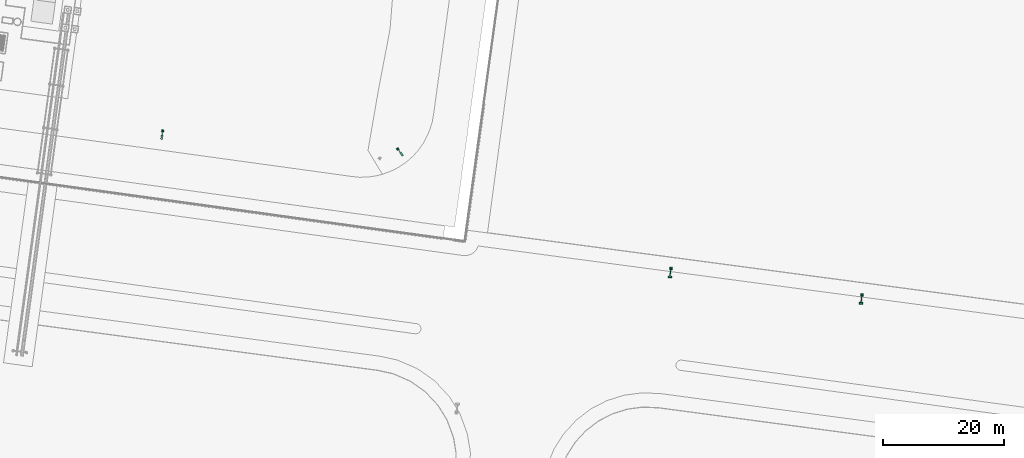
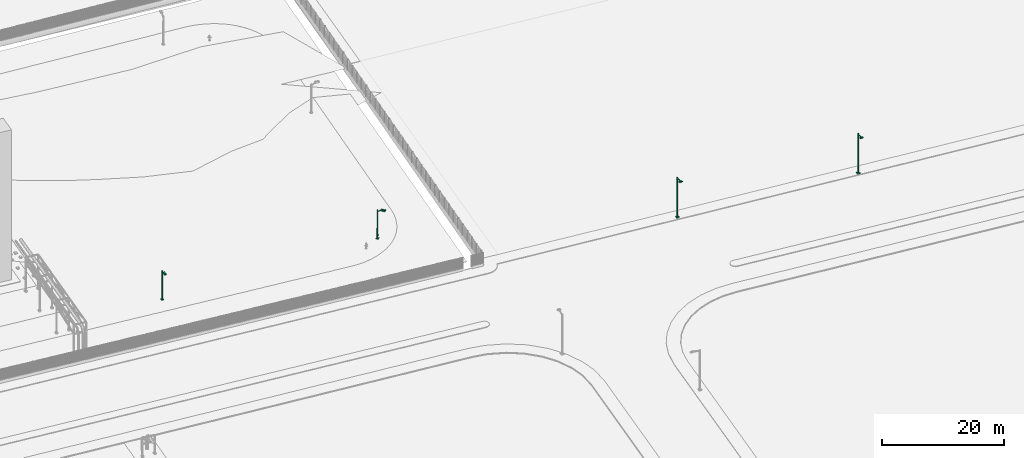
# Not in any storey, part 58 of 75: 4 light fixtures.
"""IFC4 model written with IfcOpenShell, lengths in metres."""

from ifc_helpers import new_model, si_unit, direction, origin, origin_with_axes, place, context, subcontext, project, spatial, triangles, element, save


model = new_model("IFC4")

# Units and contexts
model_context = context("Model", 3, precision=1e-05, world=origin_with_axes(), true_north=direction((0.0, 1.0)))
body_context = subcontext(model_context, "Body", "Model", "MODEL_VIEW")
ifc_project = project(units=[si_unit("AREAUNIT", "SQUARE_METRE"), si_unit("VOLUMEUNIT", "CUBIC_METRE"), si_unit("LENGTHUNIT", "METRE")], contexts=[model_context])

# Site
site_placement = place(None, origin_with_axes())
site = spatial("IfcSite", under=ifc_project, at=site_placement, Name="Parcela industrial Jinhong")

# Light fixtures
light_fixture_1_placement = place(None, origin())
element("IfcLightFixture", 1, at=light_fixture_1_placement, inside=site, Name="Luminaria LED L05 · provisional", ObjectType="Luminaria exterior provisional", PredefinedType="USERDEFINED", context=body_context, shape_type="Tessellation", body=[
    triangles([(113.705609, 18.039164, 1.957707), (113.705609, 18.039164, 2.017707), (114.039164, 18.294391, 1.957707), (114.039164, 18.294391, 2.017707), (113.960836, 17.705609, 1.957707), (113.960836, 17.705609, 2.017707), (114.294391, 17.960836, 1.957707), (114.294391, 17.960836, 2.017707)], [[2, 4, 1], [5, 2, 1], [1, 4, 3], [3, 5, 1], [2, 8, 4], [6, 2, 5], [6, 8, 2], [4, 8, 3], [7, 5, 3], [3, 8, 7], [7, 6, 5], [8, 6, 7]], closed=True),
    triangles([(114.0, 18.0, 2.017707), (114.085076, 17.888815, 2.017707), (114.085076, 17.888815, 2.077707), (114.0, 18.0, 2.077707), (114.121148, 17.929836, 2.017707), (114.121148, 17.929836, 2.077707), (114.138777, 17.981538, 2.017707), (114.138777, 17.981538, 2.077707), (114.135279, 18.036051, 2.017707), (114.135279, 18.036051, 2.077707), (114.111185, 18.085076, 2.017707), (114.111185, 18.085076, 2.077707), (114.070164, 18.121148, 2.017707), (114.070164, 18.121148, 2.077707), (114.018462, 18.138777, 2.017707), (114.018462, 18.138777, 2.077707), (113.963949, 18.135279, 2.017707), (113.963949, 18.135279, 2.077707), (113.914924, 18.111185, 2.017707), (113.914924, 18.111185, 2.077707), (113.878852, 18.070164, 2.017707), (113.878852, 18.070164, 2.077707), (113.861223, 18.018462, 2.017707), (113.861223, 18.018462, 2.077707), (113.864721, 17.963949, 2.017707), (113.864721, 17.963949, 2.077707), (113.888815, 17.914924, 2.017707), (113.888815, 17.914924, 2.077707), (113.929836, 17.878852, 2.017707), (113.929836, 17.878852, 2.077707), (113.981538, 17.861223, 2.017707), (113.981538, 17.861223, 2.077707), (114.036051, 17.864721, 2.017707), (114.036051, 17.864721, 2.077707)], [[2, 1, 5], [2, 5, 3], [3, 5, 6], [3, 6, 4], [5, 1, 7], [5, 7, 6], [6, 7, 8], [6, 8, 4], [7, 1, 9], [7, 9, 8], [8, 9, 10], [8, 10, 4], [9, 1, 11], [9, 11, 10], [10, 11, 12], [10, 12, 4], [11, 1, 13], [11, 13, 12], [12, 13, 14], [12, 14, 4], [13, 1, 15], [13, 15, 14], [14, 15, 16], [14, 16, 4], [15, 1, 17], [15, 17, 16], [16, 17, 18], [16, 18, 4], [17, 1, 19], [17, 19, 18], [18, 19, 20], [18, 20, 4], [19, 1, 21], [19, 21, 20], [20, 21, 22], [20, 22, 4], [21, 1, 23], [21, 23, 22], [22, 23, 24], [22, 24, 4], [23, 1, 25], [23, 25, 24], [24, 25, 26], [24, 26, 4], [25, 1, 27], [25, 27, 26], [26, 27, 28], [26, 28, 4], [27, 1, 29], [27, 29, 28], [28, 29, 30], [28, 30, 4], [29, 1, 31], [29, 31, 30], [30, 31, 32], [30, 32, 4], [31, 1, 33], [31, 33, 32], [32, 33, 34], [32, 34, 4], [33, 1, 2], [33, 2, 34], [34, 2, 3], [34, 3, 4]], closed=True),
    triangles([(114.051653, 17.932495, 2.077707), (114.073554, 17.9574, 2.077707), (114.084258, 17.988791, 2.077707), (114.082133, 18.021888, 2.077707), (114.067505, 18.051653, 2.077707), (114.0426, 18.073554, 2.077707), (114.011209, 18.084258, 2.077707), (113.978112, 18.082133, 2.077707), (113.948347, 18.067505, 2.077707), (113.926446, 18.0426, 2.077707), (113.915742, 18.011209, 2.077707), (113.917867, 17.978112, 2.077707), (113.932495, 17.948347, 2.077707), (113.9574, 17.926446, 2.077707), (113.988791, 17.915742, 2.077707), (114.021888, 17.917867, 2.077707), (114.027346, 17.964262, 7.657707), (114.038941, 17.977447, 7.657707), (114.044607, 17.994066, 7.657707), (114.043482, 18.011588, 7.657707), (114.035738, 18.027346, 7.657707), (114.022553, 18.038941, 7.657707), (114.005934, 18.044607, 7.657707), (113.988412, 18.043482, 7.657707), (113.972654, 18.035738, 7.657707), (113.961059, 18.022553, 7.657707), (113.955393, 18.005934, 7.657707), (113.956518, 17.988412, 7.657707), (113.964262, 17.972654, 7.657707), (113.977447, 17.961059, 7.657707), (113.994066, 17.955393, 7.657707), (114.011588, 17.956518, 7.657707)], [[31, 14, 15], [30, 14, 31], [29, 14, 30], [13, 14, 29], [26, 10, 11], [26, 11, 27], [9, 10, 26], [26, 25, 9], [4, 10, 9], [1, 16, 4], [13, 12, 4], [4, 6, 5], [9, 8, 4], [4, 2, 1], [4, 16, 15], [3, 2, 4], [4, 12, 11], [11, 10, 4], [4, 14, 13], [15, 14, 4], [7, 6, 4], [4, 8, 7], [1, 2, 18], [18, 17, 1], [32, 16, 1], [1, 17, 32], [15, 16, 32], [32, 31, 15], [11, 12, 28], [27, 11, 28], [28, 12, 13], [13, 29, 28], [21, 4, 5], [20, 4, 21], [7, 8, 24], [23, 7, 24], [9, 25, 24], [24, 8, 9], [3, 4, 19], [19, 4, 20], [19, 2, 3], [19, 18, 2], [22, 32, 17], [22, 26, 27], [17, 18, 22], [22, 19, 20], [27, 28, 22], [30, 31, 22], [22, 29, 30], [25, 26, 22], [23, 24, 22], [31, 32, 22], [22, 28, 29], [20, 21, 22], [22, 24, 25], [18, 19, 22], [22, 6, 7], [22, 7, 23], [5, 6, 22], [22, 21, 5]], closed=True),
    triangles([(114.0, 18.0, 7.657707), (114.028561, 17.962674, 7.657707), (114.028561, 17.962674, 7.677707), (114.0, 18.0, 7.677707), (114.040671, 17.976445, 7.657707), (114.040671, 17.976445, 7.677707), (114.04659, 17.993802, 7.657707), (114.04659, 17.993802, 7.677707), (114.045415, 18.012103, 7.657707), (114.045415, 18.012103, 7.677707), (114.037326, 18.028561, 7.657707), (114.037326, 18.028561, 7.677707), (114.023555, 18.040671, 7.657707), (114.023555, 18.040671, 7.677707), (114.006198, 18.04659, 7.657707), (114.006198, 18.04659, 7.677707), (113.987897, 18.045415, 7.657707), (113.987897, 18.045415, 7.677707), (113.971439, 18.037326, 7.657707), (113.971439, 18.037326, 7.677707), (113.959329, 18.023555, 7.657707), (113.959329, 18.023555, 7.677707), (113.95341, 18.006198, 7.657707), (113.95341, 18.006198, 7.677707), (113.954585, 17.987897, 7.657707), (113.954585, 17.987897, 7.677707), (113.962674, 17.971439, 7.657707), (113.962674, 17.971439, 7.677707), (113.976445, 17.959329, 7.657707), (113.976445, 17.959329, 7.677707), (113.993802, 17.95341, 7.657707), (113.993802, 17.95341, 7.677707), (114.012103, 17.954585, 7.657707), (114.012103, 17.954585, 7.677707)], [[2, 1, 5], [2, 5, 3], [3, 5, 6], [3, 6, 4], [5, 1, 7], [5, 7, 6], [6, 7, 8], [6, 8, 4], [7, 1, 9], [7, 9, 8], [8, 9, 10], [8, 10, 4], [9, 1, 11], [9, 11, 10], [10, 11, 12], [10, 12, 4], [11, 1, 13], [11, 13, 12], [12, 13, 14], [12, 14, 4], [13, 1, 15], [13, 15, 14], [14, 15, 16], [14, 16, 4], [15, 1, 17], [15, 17, 16], [16, 17, 18], [16, 18, 4], [17, 1, 19], [17, 19, 18], [18, 19, 20], [18, 20, 4], [19, 1, 21], [19, 21, 20], [20, 21, 22], [20, 22, 4], [21, 1, 23], [21, 23, 22], [22, 23, 24], [22, 24, 4], [23, 1, 25], [23, 25, 24], [24, 25, 26], [24, 26, 4], [25, 1, 27], [25, 27, 26], [26, 27, 28], [26, 28, 4], [27, 1, 29], [27, 29, 28], [28, 29, 30], [28, 30, 4], [29, 1, 31], [29, 31, 30], [30, 31, 32], [30, 32, 4], [31, 1, 33], [31, 33, 32], [32, 33, 34], [32, 34, 4], [33, 1, 2], [33, 2, 34], [34, 2, 3], [34, 3, 4]], closed=True),
    triangles([(113.817758, 18.024244, 2.017707), (113.828696, 18.009949, 2.017707), (113.828696, 18.009949, 2.042707), (113.817758, 18.024244, 2.042707), (113.835607, 18.026569, 2.017707), (113.835607, 18.026569, 2.042707), (113.824669, 18.040865, 2.017707), (113.824669, 18.040865, 2.042707), (113.806819, 18.038539, 2.017707), (113.806819, 18.038539, 2.042707), (113.799909, 18.021919, 2.017707), (113.799909, 18.021919, 2.042707), (113.810847, 18.007624, 2.017707), (113.810847, 18.007624, 2.042707)], [[2, 1, 5], [2, 5, 3], [3, 5, 6], [3, 6, 4], [5, 1, 7], [5, 7, 6], [6, 7, 8], [6, 8, 4], [7, 1, 9], [7, 9, 8], [8, 9, 10], [8, 10, 4], [9, 1, 11], [9, 11, 10], [10, 11, 12], [10, 12, 4], [11, 1, 13], [11, 13, 12], [12, 13, 14], [12, 14, 4], [13, 1, 2], [13, 2, 14], [14, 2, 3], [14, 3, 4]], closed=True),
    triangles([(114.024244, 18.182242, 2.017707), (114.035183, 18.167947, 2.017707), (114.035183, 18.167947, 2.042707), (114.024244, 18.182242, 2.042707), (114.042093, 18.184567, 2.017707), (114.042093, 18.184567, 2.042707), (114.031155, 18.198863, 2.017707), (114.031155, 18.198863, 2.042707), (114.013306, 18.196537, 2.017707), (114.013306, 18.196537, 2.042707), (114.006395, 18.179917, 2.017707), (114.006395, 18.179917, 2.042707), (114.017333, 18.165622, 2.017707), (114.017333, 18.165622, 2.042707)], [[2, 1, 5], [2, 5, 3], [3, 5, 6], [3, 6, 4], [5, 1, 7], [5, 7, 6], [6, 7, 8], [6, 8, 4], [7, 1, 9], [7, 9, 8], [8, 9, 10], [8, 10, 4], [9, 1, 11], [9, 11, 10], [10, 11, 12], [10, 12, 4], [11, 1, 13], [11, 13, 12], [12, 13, 14], [12, 14, 4], [13, 1, 2], [13, 2, 14], [14, 2, 3], [14, 3, 4]], closed=True),
    triangles([(113.975756, 17.817758, 2.017707), (113.986694, 17.803463, 2.017707), (113.986694, 17.803463, 2.042707), (113.975756, 17.817758, 2.042707), (113.993605, 17.820083, 2.017707), (113.993605, 17.820083, 2.042707), (113.982667, 17.834378, 2.017707), (113.982667, 17.834378, 2.042707), (113.964817, 17.832053, 2.017707), (113.964817, 17.832053, 2.042707), (113.957907, 17.815433, 2.017707), (113.957907, 17.815433, 2.042707), (113.968845, 17.801137, 2.017707), (113.968845, 17.801137, 2.042707)], [[2, 1, 5], [2, 5, 3], [3, 5, 6], [3, 6, 4], [5, 1, 7], [5, 7, 6], [6, 7, 8], [6, 8, 4], [7, 1, 9], [7, 9, 8], [8, 9, 10], [8, 10, 4], [9, 1, 11], [9, 11, 10], [10, 11, 12], [10, 12, 4], [11, 1, 13], [11, 13, 12], [12, 13, 14], [12, 14, 4], [13, 1, 2], [13, 2, 14], [14, 2, 3], [14, 3, 4]], closed=True),
    triangles([(114.182242, 17.975756, 2.017707), (114.193181, 17.961461, 2.017707), (114.193181, 17.961461, 2.042707), (114.182242, 17.975756, 2.042707), (114.200091, 17.978081, 2.017707), (114.200091, 17.978081, 2.042707), (114.189153, 17.992376, 2.017707), (114.189153, 17.992376, 2.042707), (114.171304, 17.990051, 2.017707), (114.171304, 17.990051, 2.042707), (114.164393, 17.973431, 2.017707), (114.164393, 17.973431, 2.042707), (114.175331, 17.959135, 2.017707), (114.175331, 17.959135, 2.042707)], [[2, 1, 5], [2, 5, 3], [3, 5, 6], [3, 6, 4], [5, 1, 7], [5, 7, 6], [6, 7, 8], [6, 8, 4], [7, 1, 9], [7, 9, 8], [8, 9, 10], [8, 10, 4], [9, 1, 11], [9, 11, 10], [10, 11, 12], [10, 12, 4], [11, 1, 13], [11, 13, 12], [12, 13, 14], [12, 14, 4], [13, 1, 2], [13, 2, 14], [14, 2, 3], [14, 3, 4]], closed=True),
    triangles([(114.01778, 17.919168, 2.487707), (114.01778, 17.919168, 2.787707), (114.073373, 17.961706, 2.487707), (114.073373, 17.961706, 2.787707), (114.025072, 17.909638, 2.487707), (114.025072, 17.909638, 2.787707), (114.080665, 17.952175, 2.487707), (114.080665, 17.952175, 2.787707)], [[2, 4, 1], [5, 2, 1], [1, 4, 3], [3, 5, 1], [2, 8, 4], [6, 2, 5], [6, 8, 2], [4, 8, 3], [7, 5, 3], [3, 8, 7], [7, 6, 5], [8, 6, 7]], closed=True),
    triangles([(114.0, 18.0, 7.357707), (114.011745, 17.984651, 7.329735), (114.345971, 17.547853, 7.709735), (114.334227, 17.563202, 7.737707), (114.023672, 17.997038, 7.333482), (114.357899, 17.56024, 7.713482), (114.029257, 18.010219, 7.343721), (114.363483, 17.573421, 7.723721), (114.027002, 18.020661, 7.357707), (114.361229, 17.583863, 7.737707), (114.017512, 18.025568, 7.371694), (114.351739, 17.588769, 7.751694), (114.00333, 18.023623, 7.381933), (114.337556, 17.586825, 7.761933), (113.988255, 18.015349, 7.38568), (114.322482, 17.578551, 7.76568), (113.976328, 18.002962, 7.381933), (114.310554, 17.566164, 7.761933), (113.970743, 17.989781, 7.371694), (114.30497, 17.552983, 7.751694), (113.972998, 17.979339, 7.357707), (114.307224, 17.542541, 7.737707), (113.982488, 17.974432, 7.343721), (114.316714, 17.537634, 7.723721), (113.99667, 17.976377, 7.333482), (114.330897, 17.539579, 7.713482)], [[2, 1, 5], [2, 5, 3], [3, 5, 6], [3, 6, 4], [5, 1, 7], [5, 7, 6], [6, 7, 8], [6, 8, 4], [7, 1, 9], [7, 9, 8], [8, 9, 10], [8, 10, 4], [9, 1, 11], [9, 11, 10], [10, 11, 12], [10, 12, 4], [11, 1, 13], [11, 13, 12], [12, 13, 14], [12, 14, 4], [13, 1, 15], [13, 15, 14], [14, 15, 16], [14, 16, 4], [15, 1, 17], [15, 17, 16], [16, 17, 18], [16, 18, 4], [17, 1, 19], [17, 19, 18], [18, 19, 20], [18, 20, 4], [19, 1, 21], [19, 21, 20], [20, 21, 22], [20, 22, 4], [21, 1, 23], [21, 23, 22], [22, 23, 24], [22, 24, 4], [23, 1, 25], [23, 25, 24], [24, 25, 26], [24, 26, 4], [25, 1, 2], [25, 2, 26], [26, 2, 3], [26, 3, 4]], closed=True),
    triangles([(114.334227, 17.563202, 7.737707), (114.340927, 17.554444, 7.705545), (114.553617, 17.276482, 7.825545), (114.546916, 17.285239, 7.857707), (114.353531, 17.565948, 7.709854), (114.56622, 17.287986, 7.829854), (114.360961, 17.576716, 7.721626), (114.573651, 17.298754, 7.841626), (114.361229, 17.583863, 7.737707), (114.573918, 17.305901, 7.857707), (114.354261, 17.585474, 7.753788), (114.56695, 17.307511, 7.873788), (114.341924, 17.581117, 7.765561), (114.554614, 17.303154, 7.885561), (114.327526, 17.571959, 7.76987), (114.540215, 17.293997, 7.88987), (114.314922, 17.560455, 7.765561), (114.527612, 17.282493, 7.885561), (114.307492, 17.549687, 7.753788), (114.520181, 17.271725, 7.873788), (114.307224, 17.542541, 7.737707), (114.519914, 17.264578, 7.857707), (114.314193, 17.54093, 7.721626), (114.526882, 17.262967, 7.841626), (114.326529, 17.545287, 7.709854), (114.539218, 17.267325, 7.829854)], [[2, 1, 5], [2, 5, 3], [3, 5, 6], [3, 6, 4], [5, 1, 7], [5, 7, 6], [6, 7, 8], [6, 8, 4], [7, 1, 9], [7, 9, 8], [8, 9, 10], [8, 10, 4], [9, 1, 11], [9, 11, 10], [10, 11, 12], [10, 12, 4], [11, 1, 13], [11, 13, 12], [12, 13, 14], [12, 14, 4], [13, 1, 15], [13, 15, 14], [14, 15, 16], [14, 16, 4], [15, 1, 17], [15, 17, 16], [16, 17, 18], [16, 18, 4], [17, 1, 19], [17, 19, 18], [18, 19, 20], [18, 20, 4], [19, 1, 21], [19, 21, 20], [20, 21, 22], [20, 22, 4], [21, 1, 23], [21, 23, 22], [22, 23, 24], [22, 24, 4], [23, 1, 25], [23, 25, 24], [24, 25, 26], [24, 26, 4], [25, 1, 2], [25, 2, 26], [26, 2, 3], [26, 3, 4]], closed=True),
    triangles([(114.294099, 17.368806, 7.777707), (114.294099, 17.368806, 7.957707), (114.532352, 17.551111, 7.777707), (114.532352, 17.551111, 7.957707), (114.731632, 16.796997, 7.777707), (114.731632, 16.796997, 7.957707), (114.969885, 16.979303, 7.777707), (114.969885, 16.979303, 7.957707)], [[2, 4, 1], [5, 2, 1], [1, 4, 3], [3, 5, 1], [2, 8, 4], [6, 2, 5], [6, 8, 2], [4, 8, 3], [7, 5, 3], [3, 8, 7], [7, 6, 5], [8, 6, 7]], closed=True),
    triangles([(114.362327, 17.345463, 7.752707), (114.362327, 17.345463, 7.777707), (114.537046, 17.479153, 7.752707), (114.537046, 17.479153, 7.777707), (114.726938, 16.868956, 7.752707), (114.726938, 16.868956, 7.777707), (114.901657, 17.002646, 7.752707), (114.901657, 17.002646, 7.777707)], [[2, 4, 1], [5, 2, 1], [1, 4, 3], [3, 5, 1], [2, 8, 4], [6, 2, 5], [6, 8, 2], [4, 8, 3], [7, 5, 3], [3, 8, 7], [7, 6, 5], [8, 6, 7]], closed=True),
])
light_fixture_2_placement = place(None, origin())
element("IfcLightFixture", 2, at=light_fixture_2_placement, inside=site, Name="Luminaria LED L06 · provisional", ObjectType="Luminaria exterior provisional", PredefinedType="USERDEFINED", context=body_context, shape_type="Tessellation", body=[
    triangles([(74.820627, 21.236697, 1.580865), (74.820627, 21.236697, 1.640865), (75.236697, 21.179373, 1.580865), (75.236697, 21.179373, 1.640865), (74.763303, 20.820627, 1.580865), (74.763303, 20.820627, 1.640865), (75.179373, 20.763303, 1.580865), (75.179373, 20.763303, 1.640865)], [[2, 4, 1], [5, 2, 1], [1, 4, 3], [3, 5, 1], [2, 8, 4], [6, 2, 5], [6, 8, 2], [4, 8, 3], [7, 5, 3], [3, 8, 7], [7, 6, 5], [8, 6, 7]], closed=True),
    triangles([(75.0, 21.0, 1.640865), (74.980892, 20.86131, 1.640865), (74.980892, 20.86131, 1.700865), (75.0, 21.0, 1.700865), (75.035421, 20.864555, 1.640865), (75.035421, 20.864555, 1.700865), (75.084557, 20.88842, 1.640865), (75.084557, 20.88842, 1.700865), (75.120821, 20.929272, 1.640865), (75.120821, 20.929272, 1.700865), (75.13869, 20.980892, 1.640865), (75.13869, 20.980892, 1.700865), (75.135445, 21.035421, 1.640865), (75.135445, 21.035421, 1.700865), (75.11158, 21.084557, 1.640865), (75.11158, 21.084557, 1.700865), (75.070728, 21.120821, 1.640865), (75.070728, 21.120821, 1.700865), (75.019108, 21.13869, 1.640865), (75.019108, 21.13869, 1.700865), (74.964579, 21.135445, 1.640865), (74.964579, 21.135445, 1.700865), (74.915443, 21.11158, 1.640865), (74.915443, 21.11158, 1.700865), (74.879179, 21.070728, 1.640865), (74.879179, 21.070728, 1.700865), (74.86131, 21.019108, 1.640865), (74.86131, 21.019108, 1.700865), (74.864555, 20.964579, 1.640865), (74.864555, 20.964579, 1.700865), (74.88842, 20.915443, 1.640865), (74.88842, 20.915443, 1.700865), (74.929272, 20.879179, 1.640865), (74.929272, 20.879179, 1.700865)], [[2, 1, 5], [2, 5, 3], [3, 5, 6], [3, 6, 4], [5, 1, 7], [5, 7, 6], [6, 7, 8], [6, 8, 4], [7, 1, 9], [7, 9, 8], [8, 9, 10], [8, 10, 4], [9, 1, 11], [9, 11, 10], [10, 11, 12], [10, 12, 4], [11, 1, 13], [11, 13, 12], [12, 13, 14], [12, 14, 4], [13, 1, 15], [13, 15, 14], [14, 15, 16], [14, 16, 4], [15, 1, 17], [15, 17, 16], [16, 17, 18], [16, 18, 4], [17, 1, 19], [17, 19, 18], [18, 19, 20], [18, 20, 4], [19, 1, 21], [19, 21, 20], [20, 21, 22], [20, 22, 4], [21, 1, 23], [21, 23, 22], [22, 23, 24], [22, 24, 4], [23, 1, 25], [23, 25, 24], [24, 25, 26], [24, 26, 4], [25, 1, 27], [25, 27, 26], [26, 27, 28], [26, 28, 4], [27, 1, 29], [27, 29, 28], [28, 29, 30], [28, 30, 4], [29, 1, 31], [29, 31, 30], [30, 31, 32], [30, 32, 4], [31, 1, 33], [31, 33, 32], [32, 33, 34], [32, 34, 4], [33, 1, 2], [33, 2, 34], [34, 2, 3], [34, 3, 4]], closed=True),
    triangles([(74.988399, 20.915795, 1.700865), (75.021506, 20.917766, 1.700865), (75.051338, 20.932255, 1.700865), (75.073355, 20.957058, 1.700865), (75.084205, 20.988399, 1.700865), (75.082234, 21.021506, 1.700865), (75.067745, 21.051338, 1.700865), (75.042942, 21.073355, 1.700865), (75.011601, 21.084205, 1.700865), (74.978494, 21.082234, 1.700865), (74.948662, 21.067745, 1.700865), (74.926645, 21.042942, 1.700865), (74.915795, 21.011601, 1.700865), (74.917766, 20.978494, 1.700865), (74.932255, 20.948662, 1.700865), (74.957058, 20.926645, 1.700865), (74.993858, 20.955421, 7.280865), (75.011385, 20.956464, 7.280865), (75.027179, 20.964135, 7.280865), (75.038835, 20.977266, 7.280865), (75.044579, 20.993858, 7.280865), (75.043536, 21.011385, 7.280865), (75.035865, 21.027179, 7.280865), (75.022734, 21.038835, 7.280865), (75.006142, 21.044579, 7.280865), (74.988615, 21.043536, 7.280865), (74.972821, 21.035865, 7.280865), (74.961165, 21.022734, 7.280865), (74.955421, 21.006142, 7.280865), (74.956464, 20.988615, 7.280865), (74.964135, 20.972821, 7.280865), (74.977266, 20.961165, 7.280865)], [[31, 14, 15], [30, 14, 31], [29, 14, 30], [13, 14, 29], [26, 10, 11], [26, 11, 27], [9, 10, 26], [26, 25, 9], [4, 10, 9], [1, 16, 4], [13, 12, 4], [4, 6, 5], [9, 8, 4], [4, 2, 1], [4, 16, 15], [3, 2, 4], [4, 12, 11], [11, 10, 4], [4, 14, 13], [15, 14, 4], [7, 6, 4], [4, 8, 7], [1, 2, 18], [18, 17, 1], [32, 16, 1], [1, 17, 32], [15, 16, 32], [32, 31, 15], [11, 12, 28], [27, 11, 28], [28, 12, 13], [13, 29, 28], [21, 4, 5], [20, 4, 21], [7, 8, 24], [23, 7, 24], [9, 25, 24], [24, 8, 9], [3, 4, 19], [19, 4, 20], [19, 2, 3], [19, 18, 2], [22, 32, 17], [22, 26, 27], [17, 18, 22], [22, 19, 20], [27, 28, 22], [30, 31, 22], [22, 29, 30], [25, 26, 22], [23, 24, 22], [31, 32, 22], [22, 28, 29], [20, 21, 22], [22, 24, 25], [18, 19, 22], [22, 6, 7], [22, 7, 23], [5, 6, 22], [22, 21, 5]], closed=True),
    triangles([(75.0, 21.0, 7.280865), (74.993585, 20.95344, 7.280865), (74.993585, 20.95344, 7.300865), (75.0, 21.0, 7.300865), (75.011891, 20.954529, 7.280865), (75.011891, 20.954529, 7.300865), (75.028387, 20.962541, 7.280865), (75.028387, 20.962541, 7.300865), (75.040561, 20.976256, 7.280865), (75.040561, 20.976256, 7.300865), (75.04656, 20.993585, 7.280865), (75.04656, 20.993585, 7.300865), (75.045471, 21.011891, 7.280865), (75.045471, 21.011891, 7.300865), (75.037459, 21.028387, 7.280865), (75.037459, 21.028387, 7.300865), (75.023744, 21.040561, 7.280865), (75.023744, 21.040561, 7.300865), (75.006415, 21.04656, 7.280865), (75.006415, 21.04656, 7.300865), (74.988109, 21.045471, 7.280865), (74.988109, 21.045471, 7.300865), (74.971613, 21.037459, 7.280865), (74.971613, 21.037459, 7.300865), (74.959439, 21.023744, 7.280865), (74.959439, 21.023744, 7.300865), (74.95344, 21.006415, 7.280865), (74.95344, 21.006415, 7.300865), (74.954529, 20.988109, 7.280865), (74.954529, 20.988109, 7.300865), (74.962541, 20.971613, 7.280865), (74.962541, 20.971613, 7.300865), (74.976256, 20.959439, 7.280865), (74.976256, 20.959439, 7.300865)], [[2, 1, 5], [2, 5, 3], [3, 5, 6], [3, 6, 4], [5, 1, 7], [5, 7, 6], [6, 7, 8], [6, 8, 4], [7, 1, 9], [7, 9, 8], [8, 9, 10], [8, 10, 4], [9, 1, 11], [9, 11, 10], [10, 11, 12], [10, 12, 4], [11, 1, 13], [11, 13, 12], [12, 13, 14], [12, 14, 4], [13, 1, 15], [13, 15, 14], [14, 15, 16], [14, 16, 4], [15, 1, 17], [15, 17, 16], [16, 17, 18], [16, 18, 4], [17, 1, 19], [17, 19, 18], [18, 19, 20], [18, 20, 4], [19, 1, 21], [19, 21, 20], [20, 21, 22], [20, 22, 4], [21, 1, 23], [21, 23, 22], [22, 23, 24], [22, 24, 4], [23, 1, 25], [23, 25, 24], [24, 25, 26], [24, 26, 4], [25, 1, 27], [25, 27, 26], [26, 27, 28], [26, 28, 4], [27, 1, 29], [27, 29, 28], [28, 29, 30], [28, 30, 4], [29, 1, 31], [29, 31, 30], [30, 31, 32], [30, 32, 4], [31, 1, 33], [31, 33, 32], [32, 33, 34], [32, 34, 4], [33, 1, 2], [33, 2, 34], [34, 2, 3], [34, 3, 4]], closed=True),
    triangles([(74.888959, 21.146526, 1.640865), (74.886503, 21.128695, 1.640865), (74.886503, 21.128695, 1.665865), (74.888959, 21.146526, 1.665865), (74.903174, 21.135483, 1.640865), (74.903174, 21.135483, 1.665865), (74.90563, 21.153315, 1.640865), (74.90563, 21.153315, 1.665865), (74.891416, 21.164358, 1.640865), (74.891416, 21.164358, 1.665865), (74.874745, 21.15757, 1.640865), (74.874745, 21.15757, 1.665865), (74.872289, 21.139738, 1.640865), (74.872289, 21.139738, 1.665865)], [[2, 1, 5], [2, 5, 3], [3, 5, 6], [3, 6, 4], [5, 1, 7], [5, 7, 6], [6, 7, 8], [6, 8, 4], [7, 1, 9], [7, 9, 8], [8, 9, 10], [8, 10, 4], [9, 1, 11], [9, 11, 10], [10, 11, 12], [10, 12, 4], [11, 1, 13], [11, 13, 12], [12, 13, 14], [12, 14, 4], [13, 1, 2], [13, 2, 14], [14, 2, 3], [14, 3, 4]], closed=True),
    triangles([(75.146526, 21.111041, 1.640865), (75.14407, 21.093209, 1.640865), (75.14407, 21.093209, 1.665865), (75.146526, 21.111041, 1.665865), (75.160741, 21.099997, 1.640865), (75.160741, 21.099997, 1.665865), (75.163197, 21.117829, 1.640865), (75.163197, 21.117829, 1.665865), (75.148983, 21.128872, 1.640865), (75.148983, 21.128872, 1.665865), (75.132312, 21.122084, 1.640865), (75.132312, 21.122084, 1.665865), (75.129856, 21.104252, 1.640865), (75.129856, 21.104252, 1.665865)], [[2, 1, 5], [2, 5, 3], [3, 5, 6], [3, 6, 4], [5, 1, 7], [5, 7, 6], [6, 7, 8], [6, 8, 4], [7, 1, 9], [7, 9, 8], [8, 9, 10], [8, 10, 4], [9, 1, 11], [9, 11, 10], [10, 11, 12], [10, 12, 4], [11, 1, 13], [11, 13, 12], [12, 13, 14], [12, 14, 4], [13, 1, 2], [13, 2, 14], [14, 2, 3], [14, 3, 4]], closed=True),
    triangles([(74.853474, 20.888959, 1.640865), (74.851017, 20.871128, 1.640865), (74.851017, 20.871128, 1.665865), (74.853474, 20.888959, 1.665865), (74.867688, 20.877916, 1.640865), (74.867688, 20.877916, 1.665865), (74.870144, 20.895748, 1.640865), (74.870144, 20.895748, 1.665865), (74.85593, 20.906791, 1.640865), (74.85593, 20.906791, 1.665865), (74.839259, 20.900003, 1.640865), (74.839259, 20.900003, 1.665865), (74.836803, 20.882171, 1.640865), (74.836803, 20.882171, 1.665865)], [[2, 1, 5], [2, 5, 3], [3, 5, 6], [3, 6, 4], [5, 1, 7], [5, 7, 6], [6, 7, 8], [6, 8, 4], [7, 1, 9], [7, 9, 8], [8, 9, 10], [8, 10, 4], [9, 1, 11], [9, 11, 10], [10, 11, 12], [10, 12, 4], [11, 1, 13], [11, 13, 12], [12, 13, 14], [12, 14, 4], [13, 1, 2], [13, 2, 14], [14, 2, 3], [14, 3, 4]], closed=True),
    triangles([(75.111041, 20.853474, 1.640865), (75.108584, 20.835642, 1.640865), (75.108584, 20.835642, 1.665865), (75.111041, 20.853474, 1.665865), (75.125255, 20.84243, 1.640865), (75.125255, 20.84243, 1.665865), (75.127711, 20.860262, 1.640865), (75.127711, 20.860262, 1.665865), (75.113497, 20.871305, 1.640865), (75.113497, 20.871305, 1.665865), (75.096826, 20.864517, 1.640865), (75.096826, 20.864517, 1.665865), (75.09437, 20.846685, 1.640865), (75.09437, 20.846685, 1.665865)], [[2, 1, 5], [2, 5, 3], [3, 5, 6], [3, 6, 4], [5, 1, 7], [5, 7, 6], [6, 7, 8], [6, 8, 4], [7, 1, 9], [7, 9, 8], [8, 9, 10], [8, 10, 4], [9, 1, 11], [9, 11, 10], [10, 11, 12], [10, 12, 4], [11, 1, 13], [11, 13, 12], [12, 13, 14], [12, 14, 4], [13, 1, 2], [13, 2, 14], [14, 2, 3], [14, 3, 4]], closed=True),
    triangles([(74.955091, 20.930479, 2.110865), (74.955091, 20.930479, 2.410865), (75.024436, 20.920925, 2.110865), (75.024436, 20.920925, 2.410865), (74.953453, 20.918591, 2.110865), (74.953453, 20.918591, 2.410865), (75.022798, 20.909037, 2.110865), (75.022798, 20.909037, 2.410865)], [[2, 4, 1], [5, 2, 1], [1, 4, 3], [3, 5, 1], [2, 8, 4], [6, 2, 5], [6, 8, 2], [4, 8, 3], [7, 5, 3], [3, 8, 7], [7, 6, 5], [8, 6, 7]], closed=True),
    triangles([(75.0, 21.0, 6.980865), (74.997362, 20.980854, 6.952892), (74.922296, 20.436001, 7.332892), (74.924934, 20.455147, 7.360865), (75.014557, 20.981099, 6.95664), (74.93949, 20.436246, 7.33664), (75.02785, 20.986408, 6.966879), (74.952784, 20.441555, 7.346879), (75.033682, 20.99536, 6.980865), (74.958615, 20.450506, 7.360865), (75.030488, 21.005554, 6.994852), (74.955422, 20.460701, 7.374852), (75.019125, 21.014261, 7.00509), (74.944059, 20.469407, 7.38509), (75.002638, 21.019146, 7.008838), (74.927571, 20.474293, 7.388838), (74.985443, 21.018901, 7.00509), (74.910377, 20.474048, 7.38509), (74.97215, 21.013592, 6.994852), (74.897083, 20.468738, 7.374852), (74.966318, 21.00464, 6.980865), (74.891252, 20.459787, 7.360865), (74.969512, 20.994446, 6.966879), (74.894445, 20.449593, 7.346879), (74.980875, 20.985739, 6.95664), (74.905808, 20.440886, 7.33664)], [[2, 1, 5], [2, 5, 3], [3, 5, 6], [3, 6, 4], [5, 1, 7], [5, 7, 6], [6, 7, 8], [6, 8, 4], [7, 1, 9], [7, 9, 8], [8, 9, 10], [8, 10, 4], [9, 1, 11], [9, 11, 10], [10, 11, 12], [10, 12, 4], [11, 1, 13], [11, 13, 12], [12, 13, 14], [12, 14, 4], [13, 1, 15], [13, 15, 14], [14, 15, 16], [14, 16, 4], [15, 1, 17], [15, 17, 16], [16, 17, 18], [16, 18, 4], [17, 1, 19], [17, 19, 18], [18, 19, 20], [18, 20, 4], [19, 1, 21], [19, 21, 20], [20, 21, 22], [20, 22, 4], [21, 1, 23], [21, 23, 22], [22, 23, 24], [22, 24, 4], [23, 1, 25], [23, 25, 24], [24, 25, 26], [24, 26, 4], [25, 1, 2], [25, 2, 26], [26, 2, 3], [26, 3, 4]], closed=True),
    triangles([(74.924934, 20.455147, 7.360865), (74.923429, 20.444223, 7.328703), (74.875659, 20.097498, 7.448703), (74.877164, 20.108422, 7.480865), (74.940471, 20.443366, 7.333012), (74.892702, 20.096641, 7.453012), (74.95335, 20.445666, 7.344784), (74.905581, 20.098941, 7.464784), (74.958615, 20.450506, 7.360865), (74.910846, 20.103782, 7.480865), (74.954855, 20.45659, 7.376946), (74.907086, 20.109865, 7.496946), (74.943078, 20.462287, 7.388718), (74.895308, 20.115562, 7.508718), (74.926439, 20.466071, 7.393027), (74.878669, 20.119346, 7.513027), (74.909396, 20.466927, 7.388718), (74.861627, 20.120203, 7.508718), (74.896517, 20.464627, 7.376946), (74.848747, 20.117903, 7.496946), (74.891252, 20.459787, 7.360865), (74.843482, 20.113062, 7.480865), (74.895012, 20.453704, 7.344784), (74.847242, 20.106979, 7.464784), (74.906789, 20.448007, 7.333012), (74.85902, 20.101282, 7.453012)], [[2, 1, 5], [2, 5, 3], [3, 5, 6], [3, 6, 4], [5, 1, 7], [5, 7, 6], [6, 7, 8], [6, 8, 4], [7, 1, 9], [7, 9, 8], [8, 9, 10], [8, 10, 4], [9, 1, 11], [9, 11, 10], [10, 11, 12], [10, 12, 4], [11, 1, 13], [11, 13, 12], [12, 13, 14], [12, 14, 4], [13, 1, 15], [13, 15, 14], [14, 15, 16], [14, 16, 4], [15, 1, 17], [15, 17, 16], [16, 17, 18], [16, 18, 4], [17, 1, 19], [17, 19, 18], [18, 19, 20], [18, 20, 4], [19, 1, 21], [19, 21, 20], [20, 21, 22], [20, 22, 4], [21, 1, 23], [21, 23, 22], [22, 23, 24], [22, 24, 4], [23, 1, 25], [23, 25, 24], [24, 25, 26], [24, 26, 4], [25, 1, 2], [25, 2, 26], [26, 2, 3], [26, 3, 4]], closed=True),
    triangles([(74.758594, 20.346836, 7.400865), (74.758594, 20.346836, 7.580865), (75.055787, 20.305891, 7.400865), (75.055787, 20.305891, 7.580865), (74.660326, 19.633574, 7.400865), (74.660326, 19.633574, 7.580865), (74.957518, 19.592628, 7.400865), (74.957518, 19.592628, 7.580865)], [[2, 4, 1], [5, 2, 1], [1, 4, 3], [3, 5, 1], [2, 8, 4], [6, 2, 5], [6, 8, 2], [4, 8, 3], [7, 5, 3], [3, 8, 7], [7, 6, 5], [8, 6, 7]], closed=True),
    triangles([(74.790031, 20.281938, 7.375865), (74.790031, 20.281938, 7.400865), (75.007972, 20.251911, 7.375865), (75.007972, 20.251911, 7.400865), (74.70814, 19.687553, 7.375865), (74.70814, 19.687553, 7.400865), (74.926082, 19.657526, 7.375865), (74.926082, 19.657526, 7.400865)], [[2, 4, 1], [5, 2, 1], [1, 4, 3], [3, 5, 1], [2, 8, 4], [6, 2, 5], [6, 8, 2], [4, 8, 3], [7, 5, 3], [3, 8, 7], [7, 6, 5], [8, 6, 7]], closed=True),
])
light_fixture_3_placement = place(None, origin())
element("IfcLightFixture", 3, at=light_fixture_3_placement, inside=site, Name="Luminaria del entorno · ilustrativa 16", ObjectType="Luminaria del entorno · ilustrativa 16", PredefinedType="USERDEFINED", context=body_context, shape_type="Tessellation", body=[
    triangles([(159.113956, -2.05707, 2.355719), (159.113956, -2.05707, 2.555719), (159.113956, -1.60707, 2.355719), (159.113956, -1.60707, 2.555719), (159.563956, -2.05707, 2.355719), (159.563956, -2.05707, 2.555719), (159.563956, -1.60707, 2.355719), (159.563956, -1.60707, 2.555719)], [[2, 4, 1], [5, 2, 1], [1, 4, 3], [3, 5, 1], [2, 8, 4], [6, 2, 5], [6, 8, 2], [4, 8, 3], [7, 5, 3], [3, 8, 7], [7, 6, 5], [8, 6, 7]], closed=True),
    triangles([(159.278956, -1.89207, 2.555719), (159.278956, -1.89207, 10.355719), (159.278956, -1.77207, 2.555719), (159.278956, -1.77207, 10.355719), (159.398956, -1.89207, 2.555719), (159.398956, -1.89207, 10.355719), (159.398956, -1.77207, 2.555719), (159.398956, -1.77207, 10.355719)], [[2, 4, 1], [5, 2, 1], [1, 4, 3], [3, 5, 1], [2, 8, 4], [6, 2, 5], [6, 8, 2], [4, 8, 3], [7, 5, 3], [3, 8, 7], [7, 6, 5], [8, 6, 7]], closed=True),
    triangles([(159.374095, -1.841593, 10.212423), (159.18306, -3.228498, 10.362423), (159.295294, -1.82994, 10.219815), (159.104259, -3.216845, 10.369815), (159.382617, -1.834201, 10.291623), (159.191582, -3.221106, 10.441623), (159.303816, -1.822548, 10.299015), (159.112782, -3.209453, 10.449015)], [[2, 4, 1], [5, 2, 1], [1, 4, 3], [3, 5, 1], [2, 8, 4], [6, 2, 5], [6, 8, 2], [4, 8, 3], [7, 5, 3], [3, 8, 7], [7, 6, 5], [8, 6, 7]], closed=True),
    triangles([(158.857921, -3.358976, 10.345719), (158.857921, -3.358976, 10.465719), (158.857921, -3.078976, 10.345719), (158.857921, -3.078976, 10.465719), (159.437921, -3.358976, 10.345719), (159.437921, -3.358976, 10.465719), (159.437921, -3.078976, 10.345719), (159.437921, -3.078976, 10.465719)], [[2, 4, 1], [5, 2, 1], [1, 4, 3], [3, 5, 1], [2, 8, 4], [6, 2, 5], [6, 8, 2], [4, 8, 3], [7, 5, 3], [3, 8, 7], [7, 6, 5], [8, 6, 7]], closed=True),
])
light_fixture_4_placement = place(None, origin())
element("IfcLightFixture", 4, at=light_fixture_4_placement, inside=site, Name="Luminaria del entorno · ilustrativa 17", ObjectType="Luminaria del entorno · ilustrativa 17", PredefinedType="USERDEFINED", context=body_context, shape_type="Tessellation", body=[
    triangles([(190.814643, -6.423584, 2.704565), (190.814643, -6.423584, 2.904565), (190.814643, -5.973584, 2.704565), (190.814643, -5.973584, 2.904565), (191.264643, -6.423584, 2.704565), (191.264643, -6.423584, 2.904565), (191.264643, -5.973584, 2.704565), (191.264643, -5.973584, 2.904565)], [[2, 4, 1], [5, 2, 1], [1, 4, 3], [3, 5, 1], [2, 8, 4], [6, 2, 5], [6, 8, 2], [4, 8, 3], [7, 5, 3], [3, 8, 7], [7, 6, 5], [8, 6, 7]], closed=True),
    triangles([(190.979643, -6.258584, 2.904565), (190.979643, -6.258584, 10.704565), (190.979643, -6.138584, 2.904565), (190.979643, -6.138584, 10.704565), (191.099643, -6.258584, 2.904565), (191.099643, -6.258584, 10.704565), (191.099643, -6.138584, 2.904565), (191.099643, -6.138584, 10.704565)], [[2, 4, 1], [5, 2, 1], [1, 4, 3], [3, 5, 1], [2, 8, 4], [6, 2, 5], [6, 8, 2], [4, 8, 3], [7, 5, 3], [3, 8, 7], [7, 6, 5], [8, 6, 7]], closed=True),
    triangles([(191.074782, -6.208107, 10.561269), (190.883747, -7.595012, 10.711269), (190.995981, -6.196454, 10.568661), (190.804946, -7.583359, 10.718661), (191.083304, -6.200715, 10.640469), (190.892269, -7.58762, 10.790469), (191.004503, -6.189062, 10.647861), (190.813468, -7.575967, 10.797861)], [[2, 4, 1], [5, 2, 1], [1, 4, 3], [3, 5, 1], [2, 8, 4], [6, 2, 5], [6, 8, 2], [4, 8, 3], [7, 5, 3], [3, 8, 7], [7, 6, 5], [8, 6, 7]], closed=True),
    triangles([(190.558608, -7.72549, 10.694565), (190.558608, -7.72549, 10.814565), (190.558608, -7.44549, 10.694565), (190.558608, -7.44549, 10.814565), (191.138608, -7.72549, 10.694565), (191.138608, -7.72549, 10.814565), (191.138608, -7.44549, 10.694565), (191.138608, -7.44549, 10.814565)], [[2, 4, 1], [5, 2, 1], [1, 4, 3], [3, 5, 1], [2, 8, 4], [6, 2, 5], [6, 8, 2], [4, 8, 3], [7, 5, 3], [3, 8, 7], [7, 6, 5], [8, 6, 7]], closed=True),
])

save(model, "model.ifc")
